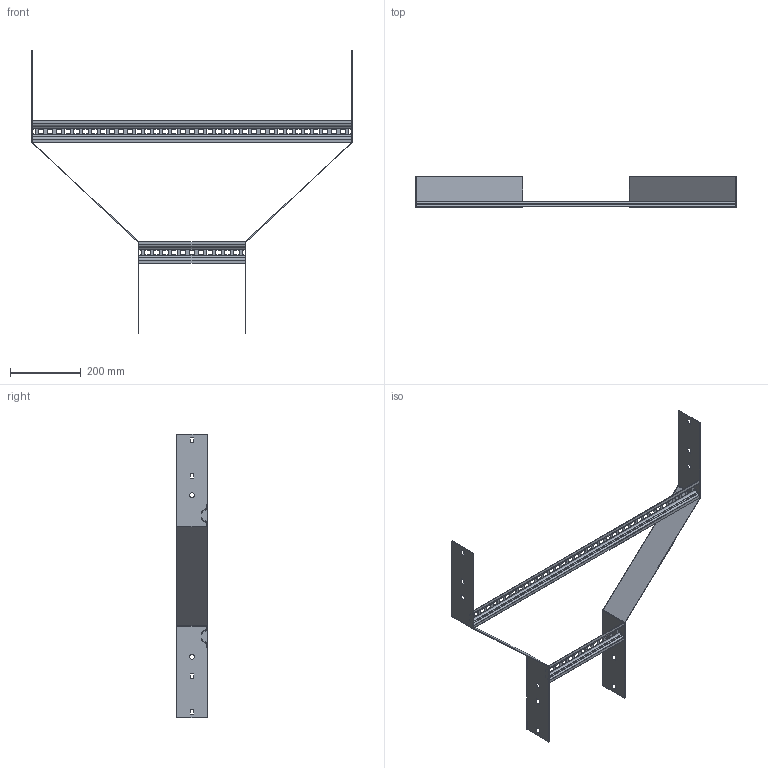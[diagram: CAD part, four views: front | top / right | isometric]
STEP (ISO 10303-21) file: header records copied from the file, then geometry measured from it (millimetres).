
FILE_DESCRIPTION (( 'STEP AP203' ), '1' );
FILE_NAME ('N2 SR900300.STEP', '2024-08-27T22:26:45', ( '' ), ( '' ), 'SwSTEP 2.0', 'SolidWorks 2023', '' );
FILE_SCHEMA (( 'CONFIG_CONTROL_DESIGN' ));
Length unit declared in the file: millimetre
Products named in the file (4): Ladder Rung_Ladder Rung -  900mm; Ladder Rung_Ladder Rung -  300mm; N2 SR900300; N2 Reducer side plate_SR300x900
Assembly tree (4 placements, depth 2):
  N2 SR900300
    N2 Reducer side plate_SR300x900  x2
    Ladder Rung_Ladder Rung -  300mm
    Ladder Rung_Ladder Rung -  900mm
Bounding box: 904 x 87 x 800 mm (x, y, z)
Volume: 448187.7 mm3; surface area: 498142.1 mm2
Topology: 4 solids, 4 shells, 360 faces, 960 edges, 608 vertices
Faces by surface type: plane 328, cylinder 32
Entity records: 10342 total; most frequent: CARTESIAN_POINT 1725, ORIENTED_EDGE 1712, DIRECTION 1554, EDGE_CURVE 856, VECTOR 808, LINE 808, VERTEX_POINT 544, EDGE_LOOP 422
